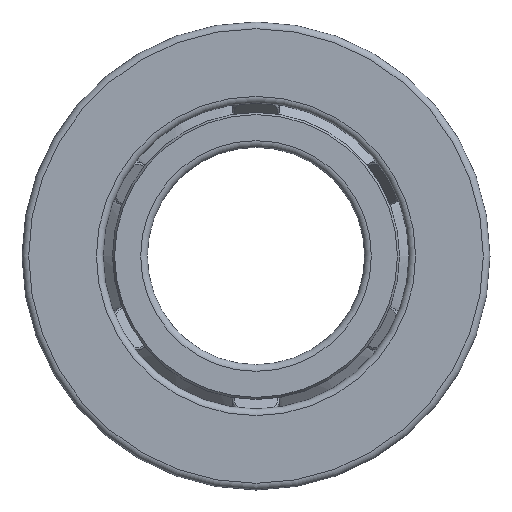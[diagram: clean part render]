
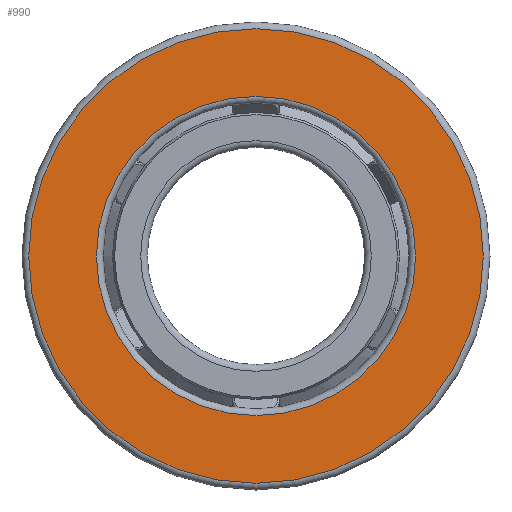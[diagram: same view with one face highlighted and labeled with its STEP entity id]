
A CAD part, front view. The second image highlights one B-rep face of the part: STEP entity #990.
In plain terms, the highlighted planar face has unit normal (0, -1, 0).
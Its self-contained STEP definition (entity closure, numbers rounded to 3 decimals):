
#210=FACE_BOUND('',#277,.T.);
#215=PLANE('',#1158);
#221=FACE_OUTER_BOUND('',#276,.T.);
#276=EDGE_LOOP('',(#677));
#277=EDGE_LOOP('',(#678));
#335=CIRCLE('',#1154,47.75);
#339=CIRCLE('',#1159,68.);
#412=VERTEX_POINT('',#1614);
#415=VERTEX_POINT('',#1622);
#518=EDGE_CURVE('',#412,#412,#335,.T.);
#522=EDGE_CURVE('',#415,#415,#339,.T.);
#677=ORIENTED_EDGE('',*,*,#522,.F.);
#678=ORIENTED_EDGE('',*,*,#518,.F.);
#990=ADVANCED_FACE('',(#221,#210),#215,.T.);
#1154=AXIS2_PLACEMENT_3D('',#1615,#1303,#1304);
#1158=AXIS2_PLACEMENT_3D('',#1621,#1311,#1312);
#1159=AXIS2_PLACEMENT_3D('',#1623,#1313,#1314);
#1303=DIRECTION('center_axis',(0.,-1.,0.));
#1304=DIRECTION('ref_axis',(1.,0.,0.));
#1311=DIRECTION('center_axis',(0.,-1.,0.));
#1312=DIRECTION('ref_axis',(0.,0.,-1.));
#1313=DIRECTION('center_axis',(0.,1.,0.));
#1314=DIRECTION('ref_axis',(1.,0.,0.));
#1614=CARTESIAN_POINT('',(0.,0.,-47.75));
#1615=CARTESIAN_POINT('Origin',(0.,0.,
0.));
#1621=CARTESIAN_POINT('Origin',(-57.875,0.,0.));
#1622=CARTESIAN_POINT('',(0.,0.,-68.));
#1623=CARTESIAN_POINT('Origin',(0.,0.,
0.));
